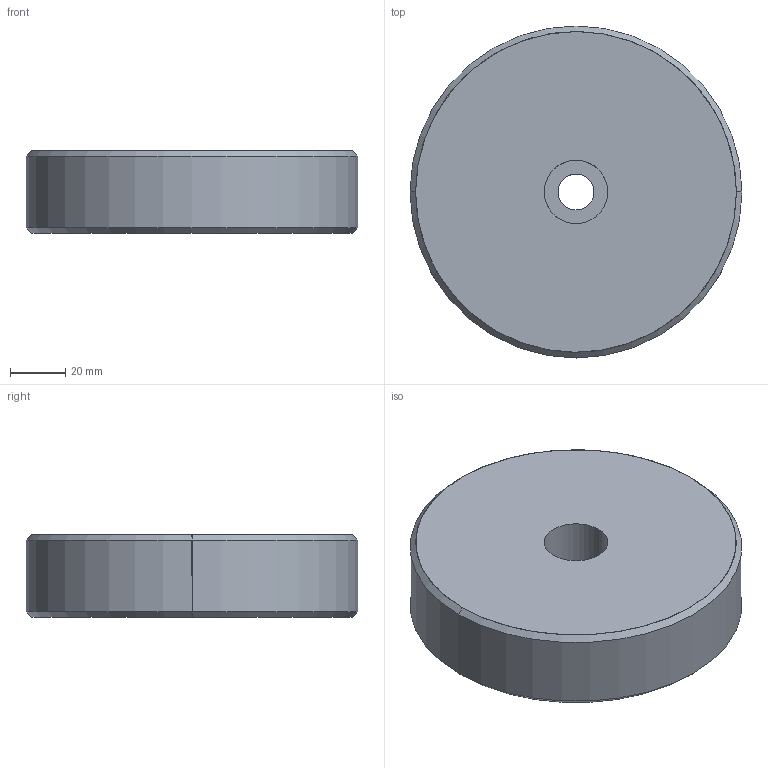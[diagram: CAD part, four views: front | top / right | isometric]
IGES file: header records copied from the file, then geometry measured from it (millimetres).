
Start section: START RECORD GO HERE.
Global section: file name: 703.6.igs; native system: DASSAULT SYSTEMES CATIA V5 R20 - www.3ds.com; preprocessor: CATIA Version 5 Release 20 ; author: Utente; organization: NB04-ASUS; date: 20201025.134431; units: millimetre
Bounding box: 120 x 120 x 30 mm (x, y, z)
Surface area: 34560.7 mm2 (no closed solid volume)
Topology: 0 solids, 0 shells, 13 faces, 52 edges, 52 vertices
Faces by surface type: revolution 10, plane 3
